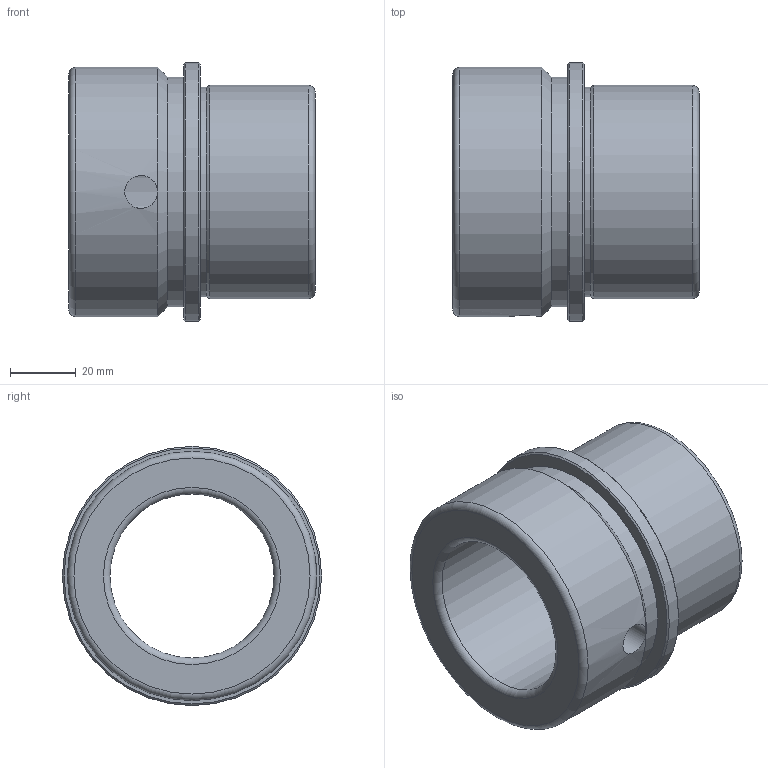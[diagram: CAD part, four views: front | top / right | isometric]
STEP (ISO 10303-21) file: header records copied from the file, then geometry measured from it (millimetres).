
FILE_DESCRIPTION(/* description */ ('Impex Ready, www.impex-ready.pl'),/* implementation_level */ '2;1');
FILE_NAME(/* name */ 'C:\Users\VIKKY\Nextcloud\SM\projekt 10 - części na stronę internetową\Pliki_3D_new\298 Tuleje BBE\298_Tuleje_BBE_STEP\BBE50M.ipt.step',/* time_stamp */ '2021-12-17T14:26:00+01:00',/* author */ ('SM'),/* organization */ (''),/* preprocessor_version */ 'ST-DEVELOPER v18.1',/* originating_system */ 'Autodesk Inventor 2021',/* authorisation */ '');
FILE_SCHEMA (('AUTOMOTIVE_DESIGN { 1 0 10303 214 3 1 1 }'));
Length unit declared in the file: millimetre
Products named in the file (1): BBE50M
Bounding box: 75 x 79 x 79 mm (x, y, z)
Volume: 145698.1 mm3; surface area: 34827.8 mm2
Topology: 1 solids, 1 shells, 19 faces, 43 edges, 26 vertices
Faces by surface type: cylinder 7, torus 4, plane 4, cone 4
Full cylindrical faces by diameter (mm): 10 x1, 50 x1, 64 x1, 65 x1, 70 x1, 76 x1, 79 x1
Entity records: 685 total; most frequent: CARTESIAN_POINT 159, DIRECTION 104, ORIENTED_EDGE 86, AXIS2_PLACEMENT_3D 46, EDGE_CURVE 43, CIRCLE 26, VERTEX_POINT 26, EDGE_LOOP 23
